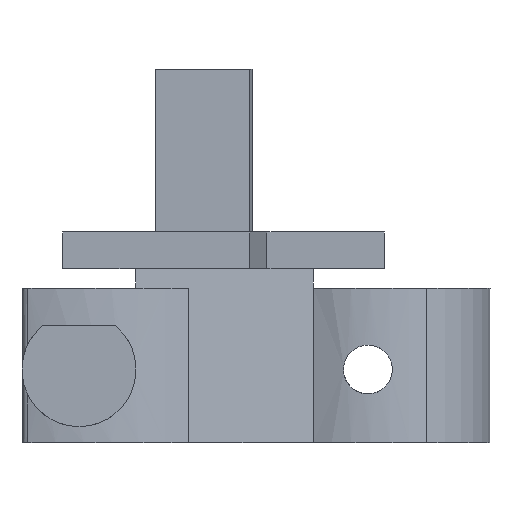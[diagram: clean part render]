
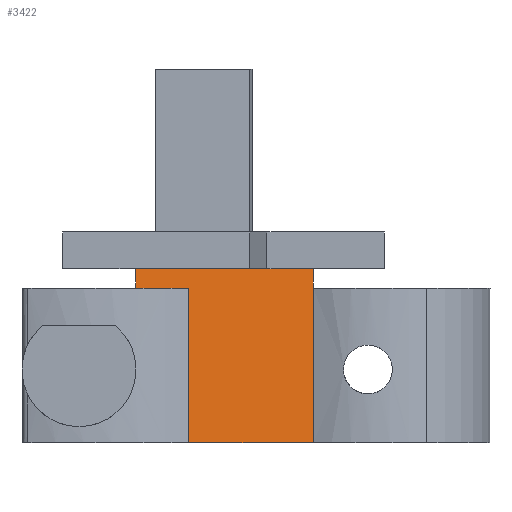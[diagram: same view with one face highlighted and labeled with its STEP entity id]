
A CAD part, front view. The second image highlights one B-rep face of the part: STEP entity #3422.
In plain terms, the highlighted planar face has unit normal (0.259, -0.966, 0).
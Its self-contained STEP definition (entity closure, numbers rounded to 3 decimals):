
#10 = VECTOR ( 'NONE', #2168, 1000. ) ;
#38 = CARTESIAN_POINT ( 'NONE',  ( -13.891, -20.141, 38.5 ) ) ;
#181 = CARTESIAN_POINT ( 'NONE',  ( -8.268, -18.634, 17.1 ) ) ;
#194 = ORIENTED_EDGE ( 'NONE', *, *, #1790, .T. ) ;
#241 = CARTESIAN_POINT ( 'NONE',  ( 7.05, -14.53, 38.5 ) ) ;
#261 = VERTEX_POINT ( 'NONE', #1190 ) ;
#299 = LINE ( 'NONE', #2791, #2861 ) ;
#304 = VERTEX_POINT ( 'NONE', #1796 ) ;
#356 = LINE ( 'NONE', #1566, #10 ) ;
#372 = ORIENTED_EDGE ( 'NONE', *, *, #853, .F. ) ;
#382 = DIRECTION ( 'NONE',  ( 0.966, 0.259, 0. ) ) ;
#391 = CARTESIAN_POINT ( 'NONE',  ( -14.75, -20.371, 38.5 ) ) ;
#403 = EDGE_LOOP ( 'NONE', ( #2264, #1938, #372, #1963, #968, #1056, #194, #3768 ) ) ;
#503 = DIRECTION ( 'NONE',  ( 0., 0., -1. ) ) ;
#582 = EDGE_CURVE ( 'NONE', #3929, #261, #3152, .T. ) ;
#611 = AXIS2_PLACEMENT_3D ( 'NONE', #1596, #1919, #382 ) ;
#635 = EDGE_CURVE ( 'NONE', #304, #3300, #2605, .T. ) ;
#646 = VECTOR ( 'NONE', #3026, 1000. ) ;
#648 = LINE ( 'NONE', #971, #1961 ) ;
#651 = DIRECTION ( 'NONE',  ( 0.966, 0.259, 0. ) ) ;
#853 = EDGE_CURVE ( 'NONE', #3540, #304, #648, .T. ) ;
#927 = LINE ( 'NONE', #3830, #2002 ) ;
#968 = ORIENTED_EDGE ( 'NONE', *, *, #1091, .T. ) ;
#971 = CARTESIAN_POINT ( 'NONE',  ( 7.05, -14.53, 38.5 ) ) ;
#1056 = ORIENTED_EDGE ( 'NONE', *, *, #3266, .T. ) ;
#1062 = CARTESIAN_POINT ( 'NONE',  ( -14.75, -20.371, 36.1 ) ) ;
#1064 = EDGE_CURVE ( 'NONE', #3929, #3300, #356, .T. ) ;
#1066 = DIRECTION ( 'NONE',  ( 0., 0., -1. ) ) ;
#1091 = EDGE_CURVE ( 'NONE', #3520, #2637, #1177, .T. ) ;
#1094 = CARTESIAN_POINT ( 'NONE',  ( -8.268, -18.634, 17.1 ) ) ;
#1177 = LINE ( 'NONE', #4064, #3645 ) ;
#1190 = CARTESIAN_POINT ( 'NONE',  ( -8.268, -18.634, 17.1 ) ) ;
#1241 = LINE ( 'NONE', #1094, #1347 ) ;
#1347 = VECTOR ( 'NONE', #1066, 1000. ) ;
#1481 = CARTESIAN_POINT ( 'NONE',  ( -8.268, -18.634, 36.1 ) ) ;
#1566 = CARTESIAN_POINT ( 'NONE',  ( 7.05, -14.53, 17.1 ) ) ;
#1596 = CARTESIAN_POINT ( 'NONE',  ( 7.05, -14.53, 17.1 ) ) ;
#1599 = VERTEX_POINT ( 'NONE', #1481 ) ;
#1624 = FACE_OUTER_BOUND ( 'NONE', #403, .T. ) ;
#1660 = VECTOR ( 'NONE', #503, 1000. ) ;
#1790 = EDGE_CURVE ( 'NONE', #1599, #261, #1241, .T. ) ;
#1796 = CARTESIAN_POINT ( 'NONE',  ( 7.05, -14.53, 38.5 ) ) ;
#1919 = DIRECTION ( 'NONE',  ( 0.259, -0.966, 0. ) ) ;
#1938 = ORIENTED_EDGE ( 'NONE', *, *, #635, .F. ) ;
#1961 = VECTOR ( 'NONE', #3506, 1000. ) ;
#1963 = ORIENTED_EDGE ( 'NONE', *, *, #2571, .F. ) ;
#2002 = VECTOR ( 'NONE', #651, 1000. ) ;
#2168 = DIRECTION ( 'NONE',  ( 0., 0., 1. ) ) ;
#2264 = ORIENTED_EDGE ( 'NONE', *, *, #1064, .T. ) ;
#2571 = EDGE_CURVE ( 'NONE', #3520, #3540, #927, .T. ) ;
#2605 = LINE ( 'NONE', #241, #1660 ) ;
#2637 = VERTEX_POINT ( 'NONE', #1062 ) ;
#2743 = DIRECTION ( 'NONE',  ( 0.966, 0.259, 0. ) ) ;
#2791 = CARTESIAN_POINT ( 'NONE',  ( 7.05, -14.53, 36.1 ) ) ;
#2861 = VECTOR ( 'NONE', #2743, 1000. ) ;
#3026 = DIRECTION ( 'NONE',  ( -0.966, -0.259, 0. ) ) ;
#3126 = DIRECTION ( 'NONE',  ( 0., 0., -1. ) ) ;
#3152 = LINE ( 'NONE', #181, #646 ) ;
#3191 = PLANE ( 'NONE',  #611 ) ;
#3266 = EDGE_CURVE ( 'NONE', #2637, #1599, #299, .T. ) ;
#3300 = VERTEX_POINT ( 'NONE', #3696 ) ;
#3422 = ADVANCED_FACE ( 'NONE', ( #1624 ), #3191, .T. ) ;
#3498 = CARTESIAN_POINT ( 'NONE',  ( 7.05, -14.53, 17.1 ) ) ;
#3506 = DIRECTION ( 'NONE',  ( 0.966, 0.259, 0. ) ) ;
#3520 = VERTEX_POINT ( 'NONE', #391 ) ;
#3540 = VERTEX_POINT ( 'NONE', #38 ) ;
#3645 = VECTOR ( 'NONE', #3126, 1000. ) ;
#3696 = CARTESIAN_POINT ( 'NONE',  ( 7.05, -14.53, 36.1 ) ) ;
#3768 = ORIENTED_EDGE ( 'NONE', *, *, #582, .F. ) ;
#3830 = CARTESIAN_POINT ( 'NONE',  ( 7.05, -14.53, 38.5 ) ) ;
#3929 = VERTEX_POINT ( 'NONE', #3498 ) ;
#4064 = CARTESIAN_POINT ( 'NONE',  ( -14.75, -20.371, 38.5 ) ) ;
